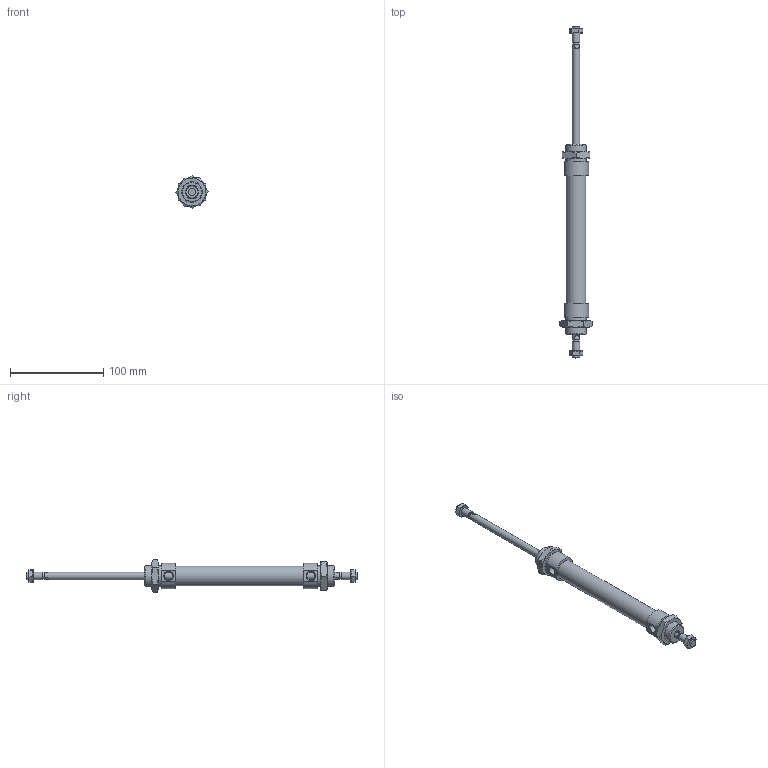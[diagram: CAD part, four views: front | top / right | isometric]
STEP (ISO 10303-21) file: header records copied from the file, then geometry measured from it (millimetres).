
FILE_DESCRIPTION((''),'2;1');
FILE_NAME('I:\Area Tecnica\Disegni\VARIE-3D\Componenti\1280\1282_##_####_#\1282_20_0100.iam.stp','2009-06-03T15:25:20',(''),(''),'Autodesk Inventor 2010','Autodesk Inventor 2010','');
FILE_SCHEMA(('AUTOMOTIVE_DESIGN { 1 0 10303 214 1 1 1 1 }'));
Length unit declared in the file: millimetre
Products named in the file (5): 1282_20_0100; C1282_20_100; S1282_20_100; 1200_20_05; 1200_20_06
Assembly tree (6 placements, depth 2):
  1282_20_0100
    C1282_20_100
    S1282_20_100
    1200_20_05  x2
    1200_20_06  x2
Bounding box: 34.64 x 356 x 34.64 mm (x, y, z)
Volume: 92993.9 mm3; surface area: 34990.2 mm2
Topology: 6 solids, 6 shells, 141 faces, 309 edges, 184 vertices
Faces by surface type: plane 60, cone 52, bspline 18, cylinder 11
Full cylindrical faces by diameter (mm): 6.5 x2, 8 x4, 21.2 x1, 22 x2
Entity records: 2813 total; most frequent: CARTESIAN_POINT 727, DIRECTION 386, ORIENTED_EDGE 352, EDGE_CURVE 176, AXIS2_PLACEMENT_3D 169, EDGE_LOOP 132, VERTEX_POINT 116, STYLED_ITEM 99
